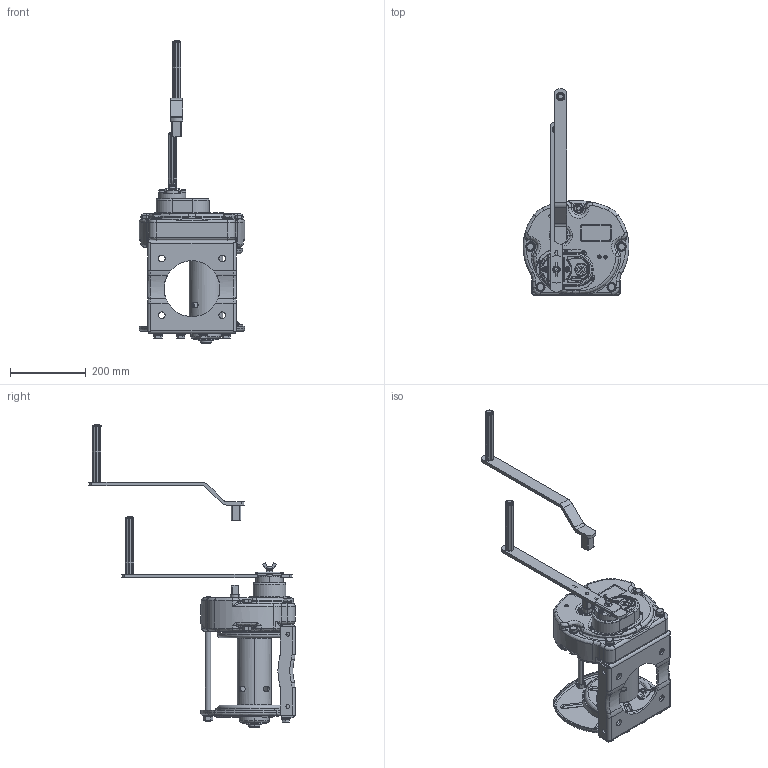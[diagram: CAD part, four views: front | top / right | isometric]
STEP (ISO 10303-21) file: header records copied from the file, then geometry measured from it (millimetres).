
FILE_DESCRIPTION( (''), '2;1');
FILE_NAME ('GM-20-LUSI.stp','2024-05-10T16:25:11',(''),(''),'spGate 19.8.2 (****-****-****-****)','','');
FILE_SCHEMA (('AUTOMOTIVE_DESIGN'));
Length unit declared in the file: millimetre
Products named in the file (4): Assembly; GM-20-LUSI-prt0; GM-20-LUSI-prt1; GM-20-LUSI-prt2
Assembly tree (3 placements, depth 2):
  Assembly
    GM-20-LUSI-prt0
    GM-20-LUSI-prt1
    GM-20-LUSI-prt2
Bounding box: 279.93 x 545.43 x 801.4 mm (x, y, z)
Volume: 7095032.6 mm3; surface area: 1010650.2 mm2
Topology: 3 solids, 3 shells, 2846 faces, 7392 edges, 4641 vertices
Faces by surface type: plane 1343, cylinder 904, bspline 501, sphere 98
Entity records: 156596 total; most frequent: CARTESIAN_POINT 30346, ORIENTED_EDGE 14628, DIRECTION 14001, COLOUR_RGB 10163, PRESENTATION_STYLE_ASSIGNMENT 10163, STYLED_ITEM 10163, EDGE_CURVE 7314, DRAUGHTING_PRE_DEFINED_CURVE_FONT 7314
